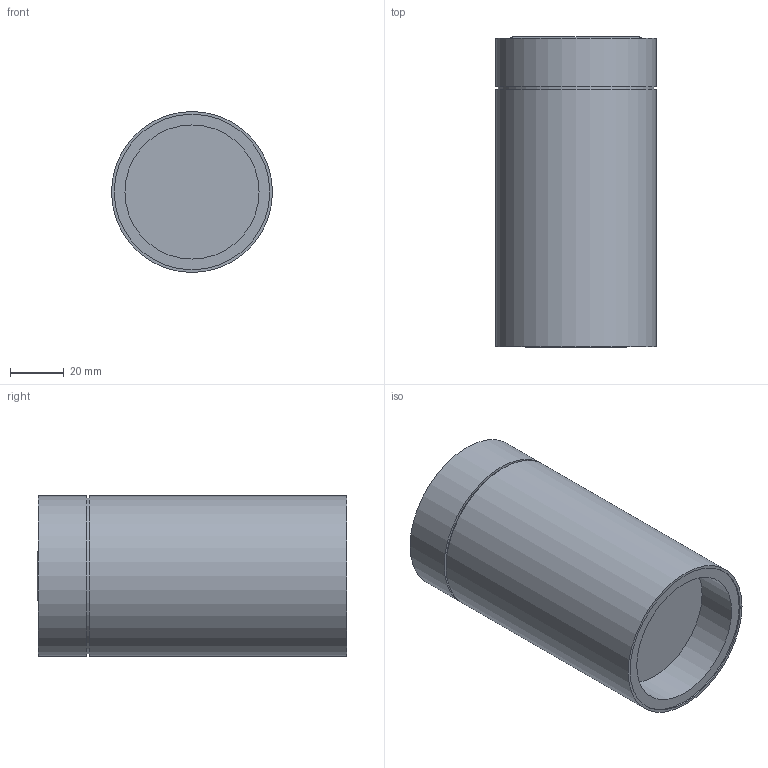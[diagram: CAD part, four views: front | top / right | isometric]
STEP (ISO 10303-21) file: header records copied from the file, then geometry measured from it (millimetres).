
FILE_DESCRIPTION(/* description */ (''),/* implementation_level */ '2;1');
FILE_NAME(/* name */ 'C:\Users\Giulia\Desktop\1854XX00 - DOT PL.stp',/* time_stamp */ '2016-04-05T08:53:05+02:00',/* author */ ('Giulia'),/* organization */ (''),/* preprocessor_version */ 'ST-DEVELOPER v16.1',/* originating_system */ 'Autodesk Inventor 2016',/* authorisation */ '');
FILE_SCHEMA (('AUTOMOTIVE_DESIGN { 1 0 10303 214 3 1 1 }'));
Length unit declared in the file: millimetre
Products named in the file (1): 1854XX00 - DOT PL
Bounding box: 60 x 115.5 x 60 mm (x, y, z)
Volume: 235632.8 mm3; surface area: 38561 mm2
Topology: 1 solids, 2 shells, 46 faces, 99 edges, 61 vertices
Faces by surface type: plane 28, cylinder 17, cone 1
Full cylindrical faces by diameter (mm): 50 x2, 54 x1, 55.835 x1, 57 x1, 58 x2, 60 x2
Entity records: 1292 total; most frequent: CARTESIAN_POINT 237, DIRECTION 212, ORIENTED_EDGE 174, EDGE_CURVE 87, AXIS2_PLACEMENT_3D 86, EDGE_LOOP 68, VERTEX_POINT 59, FACE_OUTER_BOUND 46
